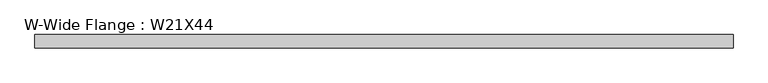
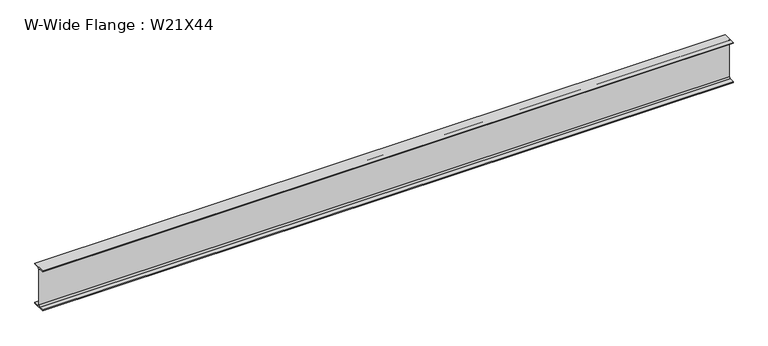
"""IFC4 building model written with IfcOpenShell, lengths in millimetres: beam geometry, W-Wide Flange : W21X44."""

from ifc_helpers import new_model, si_unit, point, frame, frame_2d, origin, place, context, project, spatial, polyline, circle_curve, trimmed, segment, composite_curve, outline, extrude, source, transform, mapped, element, save


def w_wide_flange_w21x44_bd9b7f00(model_context):
    return source(origin(), model_context, "Body", "SweptSolid", [
        extrude(outline(composite_curve([segment(polyline([(82.55, -251.46), (82.55, -262.89), (-82.55, -262.89), (-82.55, -251.46), (-21.59, -251.46)]), True, "CONTINUOUS"), segment(trimmed(circle_curve(frame_2d((-21.59, -234.315)), 17.145), [point((-21.59, -251.46))], [point((-4.445, -234.315))], True, "CARTESIAN"), True, "CONTINUOUS"), segment(polyline([(-4.445, -234.315), (-4.445, 234.315)]), True, "CONTINUOUS"), segment(trimmed(circle_curve(frame_2d((-21.59, 234.315)), 17.145), [point((-4.445, 234.315))], [point((-21.59, 251.46))], True, "CARTESIAN"), True, "CONTINUOUS"), segment(polyline([(-21.59, 251.46), (-82.55, 251.46), (-82.55, 262.89), (82.55, 262.89), (82.55, 251.46), (21.59, 251.46)]), True, "CONTINUOUS"), segment(trimmed(circle_curve(frame_2d((21.59, 234.315)), 17.145), [point((21.59, 251.46))], [point((4.445, 234.315))], True, "CARTESIAN"), True, "CONTINUOUS"), segment(polyline([(4.445, 234.315), (4.445, -234.315)]), True, "CONTINUOUS"), segment(trimmed(circle_curve(frame_2d((21.59, -234.315)), 17.145), [point((4.445, -234.315))], [point((21.59, -251.46))], True, "CARTESIAN"), True, "CONTINUOUS"), segment(polyline([(21.59, -251.46), (82.55, -251.46)]), True, "CONTINUOUS")], self_intersect=False)), frame((-4221.1128906, 0.0, 0.0), z_axis=(1.0, 0.0, 0.0), x_axis=(0.0, 1.0, 0.0)), (0.0, 0.0, 1.0), 8577.1632812),
    ])


if __name__ == "__main__":
    model = new_model("IFC4")
    model_context = context("Model", 3, world=origin())
    ifc_project = project(units=[si_unit("LENGTHUNIT", "METRE", prefix="MILLI")], contexts=[model_context])
    site = spatial("IfcSite", under=ifc_project)
    building = spatial("IfcBuilding", under=site)
    placement = place(None, origin())
    w_wide_flange_w21x44_shape = w_wide_flange_w21x44_bd9b7f00(model_context)
    element("IfcBeam", 1, ObjectType="W-Wide Flange : W21X44", at=placement, inside=building, context=model_context, shape_type="MappedRepresentation", body=[
        mapped(w_wide_flange_w21x44_shape, transform((0.0, 0.0, 0.0), x_axis=(1.0, 0.0, 0.0), y_axis=(0.0, 1.0, 0.0), z_axis=(0.0, 0.0, 1.0))),
    ])
    save(model, "model.ifc")
